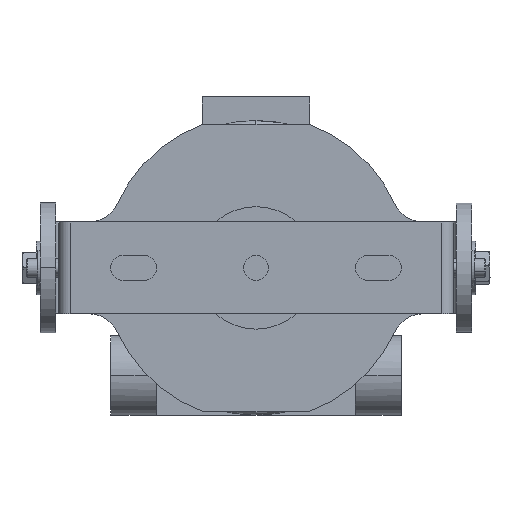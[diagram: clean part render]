
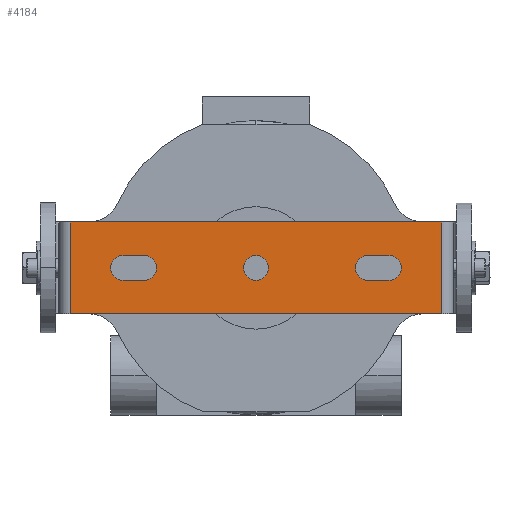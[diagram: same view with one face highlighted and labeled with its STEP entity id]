
A CAD part, front view. The second image highlights one B-rep face of the part: STEP entity #4184.
In plain terms, the highlighted planar face has unit normal (0, -1, 0).
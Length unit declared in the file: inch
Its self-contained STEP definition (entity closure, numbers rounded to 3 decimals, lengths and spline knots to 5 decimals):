
#8 = EDGE_CURVE ( 'NONE', #550, #1430, #5124, .T. ) ;
#145 = ORIENTED_EDGE ( 'NONE', *, *, #7645, .T. ) ;
#550 = VERTEX_POINT ( 'NONE', #7084 ) ;
#568 = EDGE_CURVE ( 'NONE', #5279, #17934, #1282, .T. ) ;
#715 = DIRECTION ( 'NONE',  ( 0., 0., 1. ) ) ;
#764 = VERTEX_POINT ( 'NONE', #17824 ) ;
#785 = AXIS2_PLACEMENT_3D ( 'NONE', #11908, #2731, #13425 ) ;
#787 = LINE ( 'NONE', #17309, #19631 ) ;
#788 = VECTOR ( 'NONE', #19204, 39.37008 ) ;
#1011 = LINE ( 'NONE', #17503, #16748 ) ;
#1259 = VECTOR ( 'NONE', #715, 39.37008 ) ;
#1282 = LINE ( 'NONE', #17669, #788 ) ;
#1332 = DIRECTION ( 'NONE',  ( 0., 0., -1. ) ) ;
#1430 = VERTEX_POINT ( 'NONE', #7044 ) ;
#1468 = VERTEX_POINT ( 'NONE', #6415 ) ;
#1830 = VERTEX_POINT ( 'NONE', #9048 ) ;
#1988 = CARTESIAN_POINT ( 'NONE',  ( 0., -0.1875, 2.1719 ) ) ;
#2100 = DIRECTION ( 'NONE',  ( 0., 0., -1. ) ) ;
#2124 = DIRECTION ( 'NONE',  ( -1., 0., 0. ) ) ;
#2179 = AXIS2_PLACEMENT_3D ( 'NONE', #7472, #18060, #8977 ) ;
#2223 = DIRECTION ( 'NONE',  ( 0., 0., 1. ) ) ;
#2249 = CARTESIAN_POINT ( 'NONE',  ( -0.203, -0.1875, 2.1719 ) ) ;
#2541 = PLANE ( 'NONE',  #2549 ) ;
#2549 = AXIS2_PLACEMENT_3D ( 'NONE', #10188, #13242, #4100 ) ;
#2630 = ORIENTED_EDGE ( 'NONE', *, *, #3995, .F. ) ;
#2668 = EDGE_CURVE ( 'NONE', #8101, #764, #18299, .T. ) ;
#2731 = DIRECTION ( 'NONE',  ( 0., 1., 0. ) ) ;
#2847 = ORIENTED_EDGE ( 'NONE', *, *, #19369, .F. ) ;
#2999 = ORIENTED_EDGE ( 'NONE', *, *, #5651, .T. ) ;
#3355 = VECTOR ( 'NONE', #3842, 39.37008 ) ;
#3488 = VECTOR ( 'NONE', #2124, 39.37008 ) ;
#3540 = DIRECTION ( 'NONE',  ( 0., 0., -1. ) ) ;
#3842 = DIRECTION ( 'NONE',  ( 0., 0., -1. ) ) ;
#3878 = AXIS2_PLACEMENT_3D ( 'NONE', #19588, #10508, #1332 ) ;
#3995 = EDGE_CURVE ( 'NONE', #11736, #15300, #15183, .T. ) ;
#4100 = DIRECTION ( 'NONE',  ( 0., 0., 1. ) ) ;
#4184 = ADVANCED_FACE ( 'NONE', ( #13293, #5199, #16822, #12810 ), #2541, .F. ) ;
#4209 = DIRECTION ( 'NONE',  ( 0., 1., 0. ) ) ;
#4240 = VERTEX_POINT ( 'NONE', #11779 ) ;
#4866 = DIRECTION ( 'NONE',  ( 0., 1., 0. ) ) ;
#4960 = ORIENTED_EDGE ( 'NONE', *, *, #568, .T. ) ;
#5072 = CIRCLE ( 'NONE', #3878, 0.203 ) ;
#5124 = CIRCLE ( 'NONE', #7306, 0.203 ) ;
#5199 = FACE_BOUND ( 'NONE', #18909, .T. ) ;
#5279 = VERTEX_POINT ( 'NONE', #6852 ) ;
#5412 = CARTESIAN_POINT ( 'NONE',  ( 0.75, -0.1875, -4.26593 ) ) ;
#5539 = ORIENTED_EDGE ( 'NONE', *, *, #2668, .T. ) ;
#5592 = CIRCLE ( 'NONE', #16213, 0.2031 ) ;
#5651 = EDGE_CURVE ( 'NONE', #11318, #1830, #1011, .T. ) ;
#5720 = EDGE_LOOP ( 'NONE', ( #2847, #2999, #17549, #2630 ) ) ;
#5849 = LINE ( 'NONE', #2249, #1259 ) ;
#5899 = CARTESIAN_POINT ( 'NONE',  ( 0., -0.1875, -0.2031 ) ) ;
#6348 = AXIS2_PLACEMENT_3D ( 'NONE', #6438, #17040, #7965 ) ;
#6415 = CARTESIAN_POINT ( 'NONE',  ( -0.203, -0.1875, 2.1719 ) ) ;
#6438 = CARTESIAN_POINT ( 'NONE',  ( 0., -0.1875, -2.1719 ) ) ;
#6566 = EDGE_CURVE ( 'NONE', #14865, #5279, #7487, .T. ) ;
#6587 = CARTESIAN_POINT ( 'NONE',  ( -0.203, -0.1875, -1.8281 ) ) ;
#6819 = ORIENTED_EDGE ( 'NONE', *, *, #7870, .T. ) ;
#6852 = CARTESIAN_POINT ( 'NONE',  ( 0.203, -0.1875, -1.8281 ) ) ;
#6903 = DIRECTION ( 'NONE',  ( 0., 1., 0. ) ) ;
#7044 = CARTESIAN_POINT ( 'NONE',  ( -0.203, -0.1875, 1.8281 ) ) ;
#7084 = CARTESIAN_POINT ( 'NONE',  ( 0.203, -0.1875, 1.8281 ) ) ;
#7228 = CARTESIAN_POINT ( 'NONE',  ( 0.75, -0.1875, -3.0375 ) ) ;
#7306 = AXIS2_PLACEMENT_3D ( 'NONE', #7878, #4866, #15496 ) ;
#7472 = CARTESIAN_POINT ( 'NONE',  ( 0., -0.1875, -1.8281 ) ) ;
#7487 = CIRCLE ( 'NONE', #2179, 0.203 ) ;
#7645 = EDGE_CURVE ( 'NONE', #17934, #8075, #10041, .T. ) ;
#7870 = EDGE_CURVE ( 'NONE', #7921, #4240, #12178, .T. ) ;
#7878 = CARTESIAN_POINT ( 'NONE',  ( 0., -0.1875, 1.8281 ) ) ;
#7921 = VERTEX_POINT ( 'NONE', #5899 ) ;
#7965 = DIRECTION ( 'NONE',  ( 0., 0., 1. ) ) ;
#8008 = AXIS2_PLACEMENT_3D ( 'NONE', #13336, #4209, #14848 ) ;
#8075 = VERTEX_POINT ( 'NONE', #10800 ) ;
#8101 = VERTEX_POINT ( 'NONE', #9323 ) ;
#8273 = CARTESIAN_POINT ( 'NONE',  ( 0., -0.1875, -3.0375 ) ) ;
#8429 = CARTESIAN_POINT ( 'NONE',  ( -0.75, -0.1875, -3.0375 ) ) ;
#8652 = ORIENTED_EDGE ( 'NONE', *, *, #11599, .T. ) ;
#8977 = DIRECTION ( 'NONE',  ( 0., 0., 1. ) ) ;
#9048 = CARTESIAN_POINT ( 'NONE',  ( -0.75, -0.1875, 3.0375 ) ) ;
#9089 = CARTESIAN_POINT ( 'NONE',  ( 0.75, -0.1875, 3.0375 ) ) ;
#9178 = DIRECTION ( 'NONE',  ( 0., 0., 1. ) ) ;
#9323 = CARTESIAN_POINT ( 'NONE',  ( 0., -0.1875, 2.3749 ) ) ;
#10015 = DIRECTION ( 'NONE',  ( -1., 0., 0. ) ) ;
#10041 = CIRCLE ( 'NONE', #6348, 0.203 ) ;
#10188 = CARTESIAN_POINT ( 'NONE',  ( 0., -0.1875, 4.96593 ) ) ;
#10339 = EDGE_LOOP ( 'NONE', ( #4960, #145, #8652, #10477, #18318 ) ) ;
#10347 = VECTOR ( 'NONE', #2223, 39.37008 ) ;
#10368 = ORIENTED_EDGE ( 'NONE', *, *, #12373, .T. ) ;
#10477 = ORIENTED_EDGE ( 'NONE', *, *, #15546, .T. ) ;
#10508 = DIRECTION ( 'NONE',  ( 0., 1., 0. ) ) ;
#10752 = VERTEX_POINT ( 'NONE', #6587 ) ;
#10774 = EDGE_CURVE ( 'NONE', #764, #550, #787, .T. ) ;
#10800 = CARTESIAN_POINT ( 'NONE',  ( -0.203, -0.1875, -2.1719 ) ) ;
#11111 = EDGE_CURVE ( 'NONE', #1430, #1468, #5849, .T. ) ;
#11318 = VERTEX_POINT ( 'NONE', #9089 ) ;
#11599 = EDGE_CURVE ( 'NONE', #8075, #10752, #19349, .T. ) ;
#11736 = VERTEX_POINT ( 'NONE', #7228 ) ;
#11779 = CARTESIAN_POINT ( 'NONE',  ( 0., -0.1875, 0.2031 ) ) ;
#11908 = CARTESIAN_POINT ( 'NONE',  ( 0., -0.1875, -1.8281 ) ) ;
#12178 = CIRCLE ( 'NONE', #8008, 0.2031 ) ;
#12181 = CARTESIAN_POINT ( 'NONE',  ( -0.75, -0.1875, 4.26593 ) ) ;
#12373 = EDGE_CURVE ( 'NONE', #4240, #7921, #5592, .T. ) ;
#12470 = LINE ( 'NONE', #12181, #13435 ) ;
#12693 = DIRECTION ( 'NONE',  ( 0., 1., 0. ) ) ;
#12810 = FACE_OUTER_BOUND ( 'NONE', #5720, .T. ) ;
#12934 = CARTESIAN_POINT ( 'NONE',  ( -0.203, -0.1875, -2.1719 ) ) ;
#12965 = ORIENTED_EDGE ( 'NONE', *, *, #11111, .T. ) ;
#13242 = DIRECTION ( 'NONE',  ( 0., 1., 0. ) ) ;
#13293 = FACE_BOUND ( 'NONE', #10339, .T. ) ;
#13336 = CARTESIAN_POINT ( 'NONE',  ( 0., -0.1875, 0. ) ) ;
#13425 = DIRECTION ( 'NONE',  ( 0., 0., 1. ) ) ;
#13435 = VECTOR ( 'NONE', #9178, 39.37008 ) ;
#13755 = EDGE_LOOP ( 'NONE', ( #10368, #6819 ) ) ;
#14097 = CIRCLE ( 'NONE', #785, 0.203 ) ;
#14150 = ORIENTED_EDGE ( 'NONE', *, *, #15600, .T. ) ;
#14691 = EDGE_CURVE ( 'NONE', #15300, #1830, #12470, .T. ) ;
#14848 = DIRECTION ( 'NONE',  ( 0., 0., 1. ) ) ;
#14865 = VERTEX_POINT ( 'NONE', #15813 ) ;
#15183 = LINE ( 'NONE', #8273, #3488 ) ;
#15300 = VERTEX_POINT ( 'NONE', #8429 ) ;
#15496 = DIRECTION ( 'NONE',  ( 0., 0., -1. ) ) ;
#15546 = EDGE_CURVE ( 'NONE', #10752, #14865, #14097, .T. ) ;
#15600 = EDGE_CURVE ( 'NONE', #1468, #8101, #5072, .T. ) ;
#15640 = ORIENTED_EDGE ( 'NONE', *, *, #8, .T. ) ;
#15813 = CARTESIAN_POINT ( 'NONE',  ( 0., -0.1875, -1.6251 ) ) ;
#15981 = CARTESIAN_POINT ( 'NONE',  ( 0., -0.1875, 0. ) ) ;
#16213 = AXIS2_PLACEMENT_3D ( 'NONE', #15981, #6903, #17498 ) ;
#16374 = AXIS2_PLACEMENT_3D ( 'NONE', #1988, #12693, #3540 ) ;
#16748 = VECTOR ( 'NONE', #10015, 39.37008 ) ;
#16822 = FACE_BOUND ( 'NONE', #13755, .T. ) ;
#17040 = DIRECTION ( 'NONE',  ( 0., 1., 0. ) ) ;
#17309 = CARTESIAN_POINT ( 'NONE',  ( 0.203, -0.1875, 2.1719 ) ) ;
#17498 = DIRECTION ( 'NONE',  ( 0., 0., 1. ) ) ;
#17503 = CARTESIAN_POINT ( 'NONE',  ( 0., -0.1875, 3.0375 ) ) ;
#17549 = ORIENTED_EDGE ( 'NONE', *, *, #14691, .F. ) ;
#17669 = CARTESIAN_POINT ( 'NONE',  ( 0.203, -0.1875, -2.1719 ) ) ;
#17824 = CARTESIAN_POINT ( 'NONE',  ( 0.203, -0.1875, 2.1719 ) ) ;
#17934 = VERTEX_POINT ( 'NONE', #17974 ) ;
#17974 = CARTESIAN_POINT ( 'NONE',  ( 0.203, -0.1875, -2.1719 ) ) ;
#18060 = DIRECTION ( 'NONE',  ( 0., 1., 0. ) ) ;
#18299 = CIRCLE ( 'NONE', #16374, 0.203 ) ;
#18318 = ORIENTED_EDGE ( 'NONE', *, *, #6566, .T. ) ;
#18909 = EDGE_LOOP ( 'NONE', ( #12965, #14150, #5539, #18981, #15640 ) ) ;
#18981 = ORIENTED_EDGE ( 'NONE', *, *, #10774, .T. ) ;
#19204 = DIRECTION ( 'NONE',  ( 0., 0., -1. ) ) ;
#19349 = LINE ( 'NONE', #12934, #10347 ) ;
#19369 = EDGE_CURVE ( 'NONE', #11318, #11736, #19567, .T. ) ;
#19567 = LINE ( 'NONE', #5412, #3355 ) ;
#19588 = CARTESIAN_POINT ( 'NONE',  ( 0., -0.1875, 2.1719 ) ) ;
#19631 = VECTOR ( 'NONE', #2100, 39.37008 ) ;
